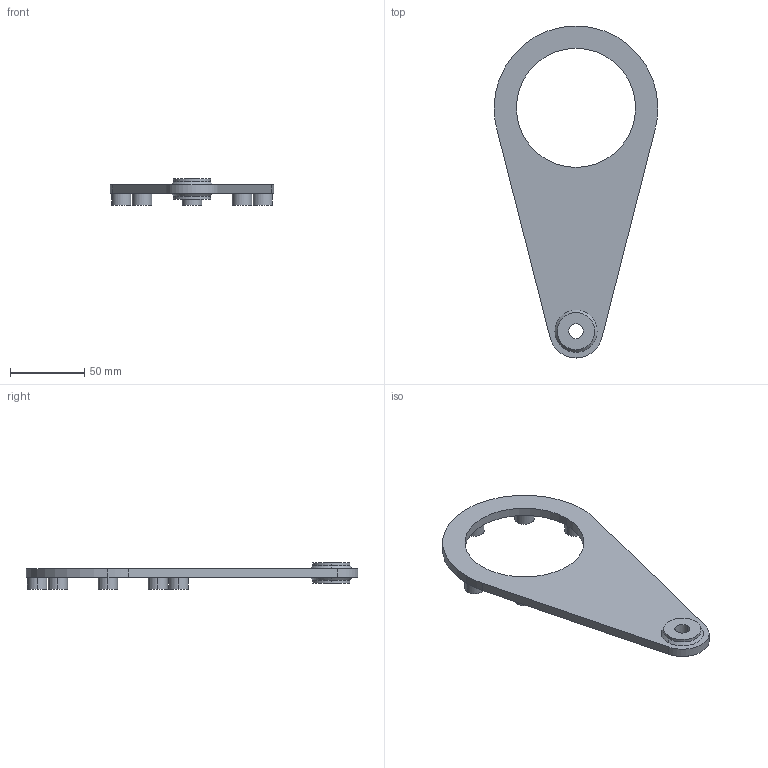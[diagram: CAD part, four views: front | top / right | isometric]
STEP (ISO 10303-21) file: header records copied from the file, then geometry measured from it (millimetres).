
FILE_DESCRIPTION (( 'STEP AP214' ), '1' );
FILE_NAME ('Drehmomentstütze_CMRV063.STEP', '2018-04-23T11:11:05', ( '' ), ( '' ), 'SwSTEP 2.0', 'SolidWorks 2012', '' );
FILE_SCHEMA (( 'AUTOMOTIVE_DESIGN' ));
Length unit declared in the file: millimetre
Products named in the file (1): Drehmomentstütze_CMRV063
Bounding box: 110 x 223 x 18 mm (x, y, z)
Volume: 80709.1 mm3; surface area: 31144.5 mm2
Topology: 1 solids, 1 shells, 46 faces, 98 edges, 64 vertices
Faces by surface type: cylinder 28, plane 14, cone 4
Entity records: 1818 total; most frequent: DIRECTION 252, CARTESIAN_POINT 209, ORIENTED_EDGE 196, AXIS2_PLACEMENT_3D 107, EDGE_CURVE 98, VERTEX_POINT 64, EDGE_LOOP 60, CIRCLE 60
